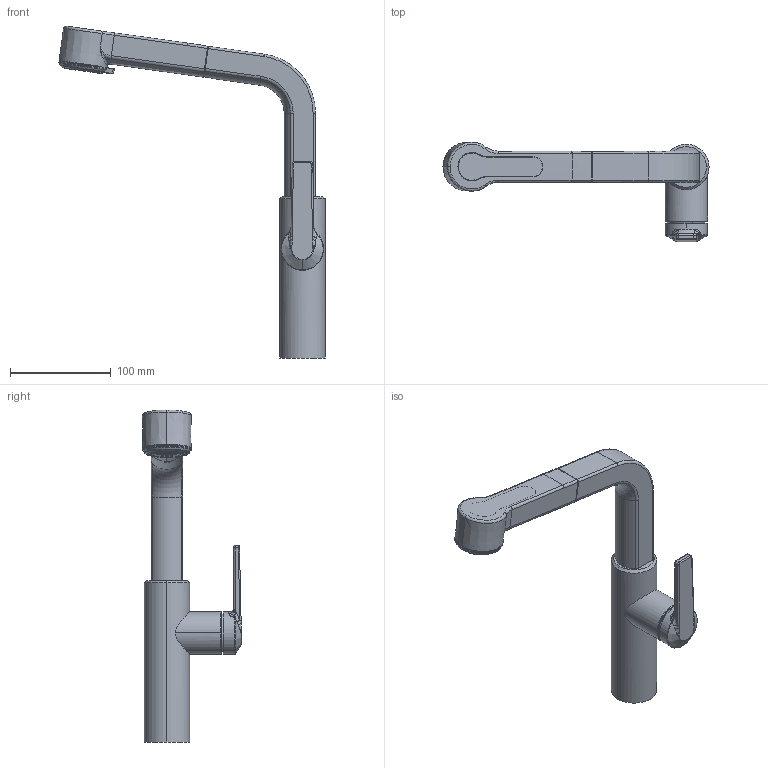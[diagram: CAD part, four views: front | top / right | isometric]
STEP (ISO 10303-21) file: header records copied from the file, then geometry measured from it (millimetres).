
FILE_DESCRIPTION((''),'2;1');
FILE_NAME('DOMO_E_SIDE_LEVER_PUL_SW0001','2020-12-15T13:31:01',('LF994'),(''),'CREO PARAMETRIC BY PTC INC, 2018500','CREO PARAMETRIC BY PTC INC, 2018500','');
FILE_SCHEMA(('CONFIG_CONTROL_DESIGN'));
Length unit declared in the file: millimetre
Products named in the file (1): DOMO_E_SIDE_LEVER_PUL_SW0001
Bounding box: 263.6 x 98.29 x 328.92 mm (x, y, z)
Volume: 268378.1 mm3; surface area: 158073.5 mm2
Topology: 1 solids, 1 shells, 2487 faces, 7197 edges, 4665 vertices
Faces by surface type: cylinder 1301, plane 603, bspline 222, cone 203, torus 137, sphere 16, extrusion 5
Entity records: 109845 total; most frequent: CARTESIAN_POINT 45261, ORIENTED_EDGE 14358, DIRECTION 11886, EDGE_CURVE 7179, VERTEX_POINT 4665, AXIS2_PLACEMENT_3D 4605, EDGE_LOOP 3584, VECTOR 2676
